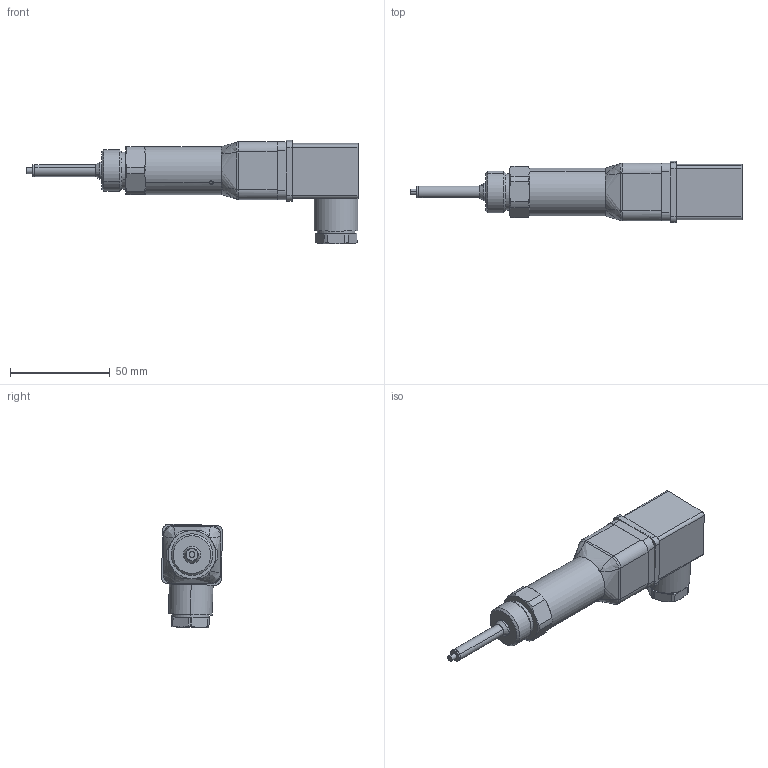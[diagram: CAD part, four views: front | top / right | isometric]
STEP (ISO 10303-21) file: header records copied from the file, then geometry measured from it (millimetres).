
FILE_DESCRIPTION (( 'STEP AP214' ), '1' );
FILE_NAME ('AST11 DIN43650 Soket.STEP', '2025-12-11T09:26:56', ( '' ), ( '' ), 'SwSTEP 2.0', 'SolidWorks 2014', '' );
FILE_SCHEMA (( 'AUTOMOTIVE_DESIGN' ));
Length unit declared in the file: millimetre
Products named in the file (1): AST11 DIN43650 Soket
Bounding box: 166.5 x 30.66 x 52.08 mm (x, y, z)
Surface area: 16823.5 mm2 (no closed solid volume)
Topology: 0 solids, 7 shells, 145 faces, 371 edges, 236 vertices
Faces by surface type: cylinder 51, plane 43, cone 27, bspline 24
Entity records: 7511 total; most frequent: CARTESIAN_POINT 2549, DIRECTION 683, ORIENTED_EDGE 682, EDGE_CURVE 367, AXIS2_PLACEMENT_3D 278, VERTEX_POINT 236, EDGE_LOOP 162, CIRCLE 156
